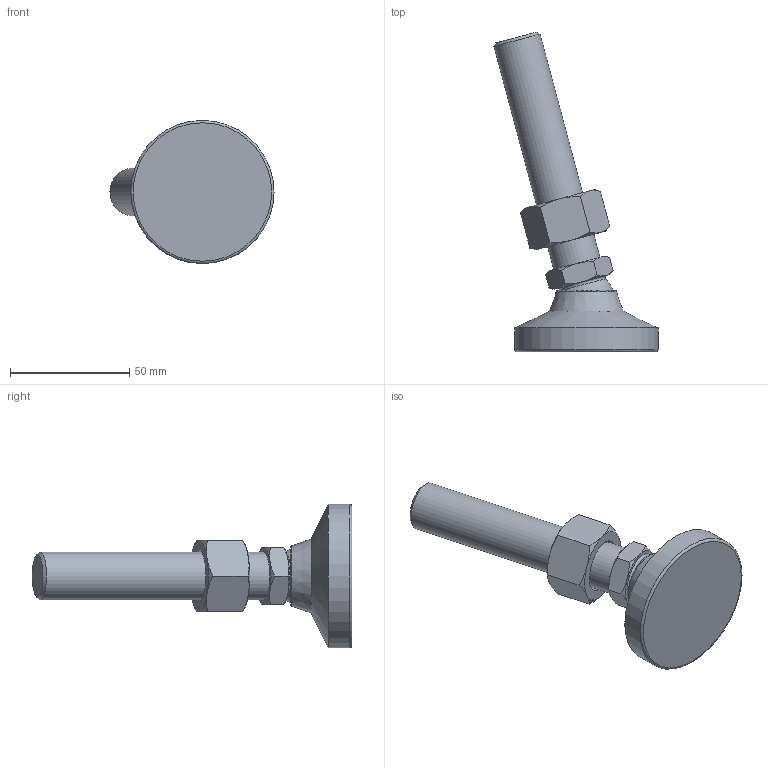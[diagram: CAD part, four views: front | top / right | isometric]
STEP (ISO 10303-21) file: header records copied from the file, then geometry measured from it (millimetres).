
FILE_DESCRIPTION( ( 'STEP AP214' ), ' ' );
FILE_NAME( 'O:/ganter_2015/teil_2/2_5/gn343_2/gn343_2_ks/Levelling foot with threaded stud GN 343.2-60-M20-98-KS-(15).stp', '2015-10-26T09:11:40', ( '' ), ( '' ), ' ', 'PARTsolutions', ' ' );
FILE_SCHEMA( ( 'AUTOMOTIVE_DESIGN { 1 0 10303 214 1 1 1 1 }' ) );
Length unit declared in the file: millimetre
Products named in the file (4): Levelling foot with threaded stud GN 343.2-60-M20-98-KS-(15); _Levelling foot with threaded stud GN 343.2-60-M20-98-KS-(15)_foot; _Gelenkfuss mit Schraube GN 343.2-60-M20-98-KS-(15)_screw; _GLevelling foot with threaded stud GN 343.2-60-M20-98-KS-(15)_nut
Assembly tree (3 placements, depth 2):
  Levelling foot with threaded stud GN 343.2-60-M20-98-KS-(15)
    _Levelling foot with threaded stud GN 343.2-60-M20-98-KS-(15)_foot
    _Gelenkfuss mit Schraube GN 343.2-60-M20-98-KS-(15)_screw
    _GLevelling foot with threaded stud GN 343.2-60-M20-98-KS-(15)_nut
Bounding box: 68.71 x 133.91 x 60 mm (x, y, z)
Volume: 90907.5 mm3; surface area: 21531.3 mm2
Topology: 3 solids, 3 shells, 56 faces, 117 edges, 68 vertices
Faces by surface type: cone 29, plane 19, torus 3, cylinder 3, sphere 2
Full cylindrical faces by diameter (mm): 17.294 x1, 20 x1, 60 x1
Entity records: 2090 total; most frequent: CARTESIAN_POINT 522, DIRECTION 212, ORIENTED_EDGE 200, AXIS2_PLACEMENT_3D 100, EDGE_CURVE 100, EDGE_LOOP 72, VERTEX_POINT 66, FACE_OUTER_BOUND 62
